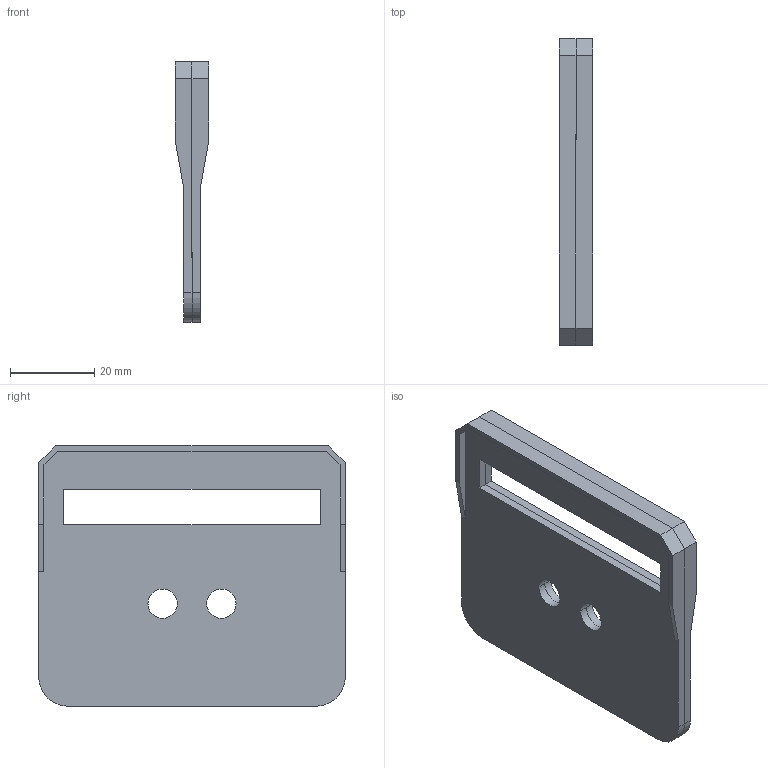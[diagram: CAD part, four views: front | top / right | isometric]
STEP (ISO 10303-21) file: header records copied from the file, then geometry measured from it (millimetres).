
FILE_DESCRIPTION (( 'STEP AP214' ), '1' );
FILE_NAME ('Distanz 2 mm_KK697610_links.step', '2010-10-06T09:28:43', ( 'grass' ), ( '' ), 'SwSTEP 2.0', 'SolidWorks 2010', '' );
FILE_SCHEMA (( 'AUTOMOTIVE_DESIGN' ));
Length unit declared in the file: millimetre
Products named in the file (1): Distanz 2 mm_KK697610_links
Bounding box: 8 x 73 x 62 mm (x, y, z)
Volume: 16172.6 mm3; surface area: 18286.5 mm2
Topology: 2 solids, 2 shells, 52 faces, 144 edges, 96 vertices
Faces by surface type: plane 40, cylinder 12
Entity records: 1719 total; most frequent: CARTESIAN_POINT 293, ORIENTED_EDGE 288, DIRECTION 274, EDGE_CURVE 144, LINE 120, VECTOR 120, VERTEX_POINT 96, AXIS2_PLACEMENT_3D 77
